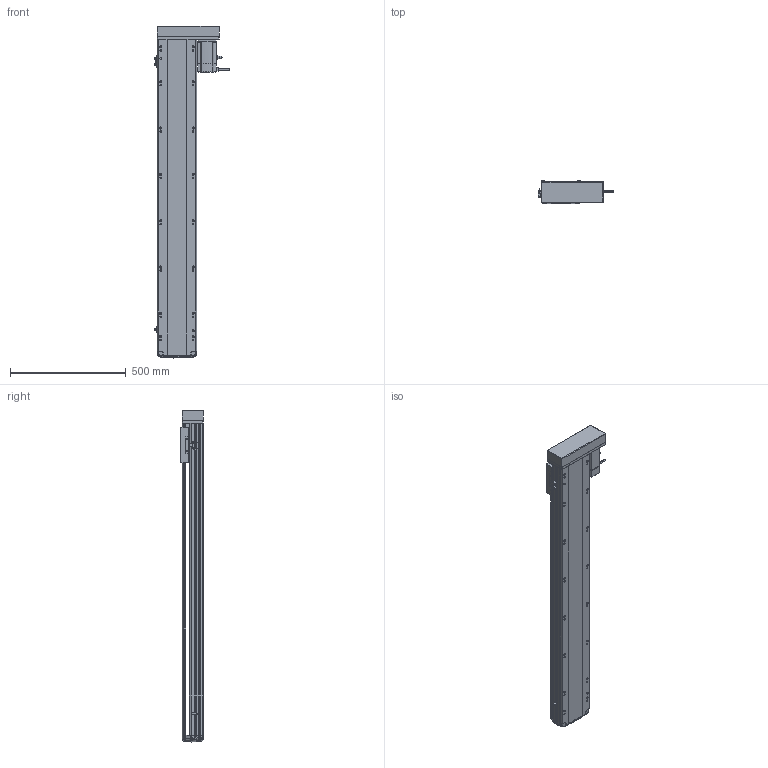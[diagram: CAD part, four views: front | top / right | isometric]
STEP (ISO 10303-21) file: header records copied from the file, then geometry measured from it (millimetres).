
FILE_DESCRIPTION (( 'STEP AP214' ), '1' );
FILE_NAME ('RTH17-XX-1150-L-M75-C4.STEP', '2025-10-24T10:36:31', ( '' ), ( '' ), 'SwSTEP 2.0', 'SolidWorks 2018', '' );
FILE_SCHEMA (( 'AUTOMOTIVE_DESIGN' ));
Length unit declared in the file: millimetre
Products named in the file (10): N_RTH17-M-011底座^RTH17-XX-XX-L-M75-C4（方程式）; N_RTH17-E-004丝杆螺母连接座^RTH17-XX-XX-L-M75-C4（方程式）; RTH17-XX-1150-L-M75-C4; N_RTH17-GY-001P^RTH17-XX-XX-L-M75-C4（方程式）; N_RTH-L-012 感应片(外置)^RTH17-XX-XX-L-M75-C4（方程式）; N_OMRON EE-SX672 換覜ん^RTH17-XX-XX-L-M75-C4ㄗ源最宒ㄘ; N_RTH17-L-018盖子^RTH17-XX-XX-L-M75-C4（方程式）; N_RTH17-L-008-P75电机安装板左转折^RTH17-XX-XX-L-M75-C4（方程式）; N_RTH17-M-007上盖^RTH17-XX-XX-L-M75-C4（方程式）; N_M75^RTH17-XX-XX-L-M75-C4（方程式）
Assembly tree (11 placements, depth 2):
  RTH17-XX-1150-L-M75-C4
    N_RTH17-M-011底座^RTH17-XX-XX-L-M75-C4（方程式）
    N_RTH17-M-007上盖^RTH17-XX-XX-L-M75-C4（方程式）
    N_M75^RTH17-XX-XX-L-M75-C4（方程式）
    N_OMRON EE-SX672 換覜ん^RTH17-XX-XX-L-M75-C4ㄗ源最宒ㄘ  x3
    N_RTH-L-012 感应片(外置)^RTH17-XX-XX-L-M75-C4（方程式）
    N_RTH17-L-008-P75电机安装板左转折^RTH17-XX-XX-L-M75-C4（方程式）
    N_RTH17-L-018盖子^RTH17-XX-XX-L-M75-C4（方程式）
    N_RTH17-E-004丝杆螺母连接座^RTH17-XX-XX-L-M75-C4（方程式）
    N_RTH17-GY-001P^RTH17-XX-XX-L-M75-C4（方程式）
Bounding box: 326.7 x 97 x 1432.99 mm (x, y, z)
Volume: 12295742 mm3; surface area: 1540178.8 mm2
Topology: 13 solids, 15 shells, 1789 faces, 4943 edges, 3202 vertices
Faces by surface type: plane 837, cylinder 538, bspline 377, cone 28, torus 9
Entity records: 52717 total; most frequent: CARTESIAN_POINT 21003, ORIENTED_EDGE 6910, DIRECTION 5743, EDGE_CURVE 3459, VERTEX_POINT 2238, AXIS2_PLACEMENT_3D 1945, LINE 1853, VECTOR 1853
